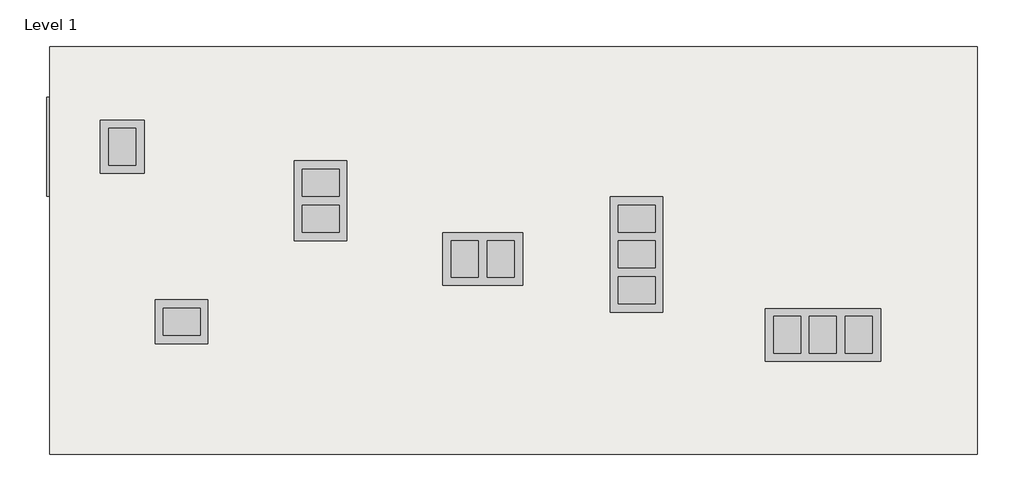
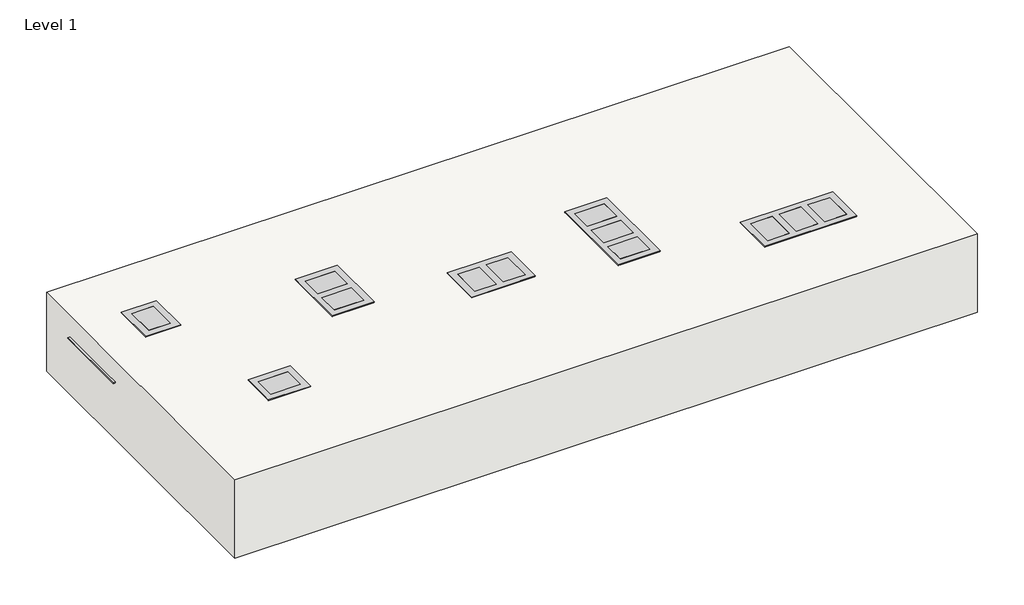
# One storey: 6 proxies, 1 slab.
"""IFC4 building model written with IfcOpenShell, lengths in millimetres."""

import ifcopenshell
import ifcopenshell.guid

model = None  # the IFC model being written
_history = None  # IfcOwnerHistory: only IFC2X3 demands one
_inside = {}  # id of a spatial element -> (the spatial element, [elements in it])
_under = {}  # id of a project, library or spatial element -> (it, [spatial elements below it])
_declared = {}  # id of a project -> (the project, [libraries it declares])
_typed = {}  # id of a type object -> (the type object, [elements of that type])
_made_of = {}  # id of a material, layer set ... -> (it, [elements and type objects made of it])


def new_model(schema):
    """Start an empty IFC model of exactly this schema.

    Asked for "IFC4X3", IfcOpenShell would pick the latest addendum, in which some entities
    have other attributes; the version numbers below select the first issue.
    IFC2X3 requires an IfcOwnerHistory on every rooted entity: one is made here for all.
    """
    global model, _history
    if schema == "IFC4X3":
        model = ifcopenshell.file(schema_version=(4, 3, 0, 0))
    else:
        model = ifcopenshell.file(schema=schema)
    _inside.clear()
    _under.clear()
    _declared.clear()
    _typed.clear()
    _made_of.clear()
    _history = None
    if model.schema == "IFC2X3":
        org = make("IfcOrganization", Name="unknown")
        user = make(
            "IfcPersonAndOrganization",
            ThePerson=make("IfcPerson", FamilyName="unknown"),
            TheOrganization=org,
        )
        app = make(
            "IfcApplication",
            ApplicationDeveloper=org,
            Version="unknown",
            ApplicationFullName="unknown",
            ApplicationIdentifier="unknown",
        )
        _history = make(
            "IfcOwnerHistory",
            OwningUser=user,
            OwningApplication=app,
            ChangeAction="ADDED",
            CreationDate=0,
        )
    return model


def make(cls, **values):
    """One entity of the class cls with the attributes given. An attribute that is None is left unset."""
    return model.create_entity(
        cls, **{name: value for name, value in values.items() if value is not None}
    )


def rooted(cls, **values):
    """An entity with a GlobalId (a new one), such as an element, a storey or a relation."""
    return make(cls, GlobalId=ifcopenshell.guid.new(), OwnerHistory=_history, **values)


def si_unit(unit_type, name, prefix=None):
    """IfcSIUnit, for example si_unit("LENGTHUNIT", "METRE", prefix="MILLI")."""
    return make("IfcSIUnit", UnitType=unit_type, Prefix=prefix, Name=name)


def assignment(units):
    """IfcUnitAssignment: the units of a project."""
    return None if units is None else make("IfcUnitAssignment", Units=units)


def point(xyz):
    """IfcCartesianPoint."""
    return None if xyz is None else make("IfcCartesianPoint", Coordinates=xyz)


def direction(xyz):
    """IfcDirection."""
    return None if xyz is None else make("IfcDirection", DirectionRatios=xyz)


def frame(location, z_axis=None, x_axis=None):
    """IfcAxis2Placement3D, a coordinate frame: its origin and axes. An axis left out is left unset."""
    return make(
        "IfcAxis2Placement3D",
        Location=point(location),
        Axis=direction(z_axis),
        RefDirection=direction(x_axis),
    )


def origin():
    """The frame at (0, 0, 0) with its axes left unset."""
    return frame((0.0, 0.0, 0.0))


def origin_with_axes():
    """The frame at (0, 0, 0) with the z axis (0, 0, 1) and the x axis (1, 0, 0) written out."""
    return frame((0.0, 0.0, 0.0), z_axis=(0.0, 0.0, 1.0), x_axis=(1.0, 0.0, 0.0))


def place(relative_to, where):
    """IfcLocalPlacement: puts the frame where relative to a parent placement (None: the world)."""
    return make(
        "IfcLocalPlacement", PlacementRelTo=relative_to, RelativePlacement=where
    )


def context(
    kind, dimensions, precision=None, world=None, true_north=None, identifier=None
):
    """IfcGeometricRepresentationContext, for example the 3D "Model" context."""
    return make(
        "IfcGeometricRepresentationContext",
        ContextIdentifier=identifier,
        ContextType=kind,
        CoordinateSpaceDimension=dimensions,
        Precision=precision,
        WorldCoordinateSystem=world,
        TrueNorth=true_north,
    )


def project(units=None, contexts=None):
    """IfcProject with its units and contexts."""
    return rooted(
        "IfcProject",
        Name="project",
        RepresentationContexts=contexts,
        UnitsInContext=assignment(units),
    )


def spatial(cls, under=None, at=None, **own):
    """A site, building, storey or space (cls), placed at a placement, below another one or the project."""
    s = rooted(cls, ObjectPlacement=at, **own)
    if under is not None:
        _under.setdefault(under.id(), (under, []))[1].append(s)
    return s


def polyline(points):
    """IfcPolyline through the points."""
    return make("IfcPolyline", Points=[point(p) for p in points])


def circle_curve(where, radius):
    """IfcCircle in the frame where."""
    return make("IfcCircle", Position=where, Radius=radius)


def outline(outer, holes=None, kind="AREA"):
    """IfcArbitraryClosedProfileDef: a profile drawn as a closed curve; with holes, ...WithVoids."""
    if holes is None:
        return make("IfcArbitraryClosedProfileDef", ProfileType=kind, OuterCurve=outer)
    return make(
        "IfcArbitraryProfileDefWithVoids",
        ProfileType=kind,
        OuterCurve=outer,
        InnerCurves=holes,
    )


def extrude(swept, where, along, depth):
    """IfcExtrudedAreaSolid: the profile swept, set in the frame where, extruded along a direction by depth."""
    return make(
        "IfcExtrudedAreaSolid",
        SweptArea=swept,
        Position=where,
        ExtrudedDirection=direction(along),
        Depth=depth,
    )


def faces_of(points, faces, orient=None, outer=None):
    """IfcFace entities. A face is a list of loops; a loop is a list of indices into points, from 0.

    orient and outer hold one flag for each loop. By default every Orientation is true, the
    first loop of a face is its IfcFaceOuterBound and the others are IfcFaceBound.
    """
    made = []
    for i, loops in enumerate(faces):
        bounds = []
        for j, loop in enumerate(loops):
            is_outer = j == 0 if outer is None else outer[i][j]
            bounds.append(
                make(
                    "IfcFaceOuterBound" if is_outer else "IfcFaceBound",
                    Bound=make("IfcPolyLoop", Polygon=[points[k] for k in loop]),
                    Orientation=True if orient is None else orient[i][j],
                )
            )
        made.append(make("IfcFace", Bounds=bounds))
    return made


def faceted_brep(points, faces, orient=None, outer=None, voids=None):
    """IfcFacetedBrep: a solid bounded by flat faces; with voids (closed shells), ...WithVoids."""
    shared = [point(p) for p in points]
    hull = make("IfcClosedShell", CfsFaces=faces_of(shared, faces, orient, outer))
    if voids is None:
        return make("IfcFacetedBrep", Outer=hull)
    return make(
        "IfcFacetedBrepWithVoids",
        Outer=hull,
        Voids=[
            make(cls, CfsFaces=faces_of(shared, fs, o, b)) for cls, fs, o, b in voids
        ],
    )


def shape(context_of_items, identifier, shape_type, items):
    """IfcShapeRepresentation: the items that make up one representation, for example the "Body"."""
    return make(
        "IfcShapeRepresentation",
        ContextOfItems=context_of_items,
        RepresentationIdentifier=identifier,
        RepresentationType=shape_type,
        Items=items,
    )


def source(mapping_origin, context_of_items, identifier, shape_type, items):
    """IfcRepresentationMap: a shape defined once, which mapped items show again and again."""
    return make(
        "IfcRepresentationMap",
        MappingOrigin=mapping_origin,
        MappedRepresentation=shape(context_of_items, identifier, shape_type, items),
    )


def transform(
    local_origin,
    x_axis=None,
    y_axis=None,
    z_axis=None,
    scale=None,
    scale2=None,
    scale3=None,
    uniform=True,
):
    """IfcCartesianTransformationOperator3D, or its non-uniform kind. x_axis, y_axis, z_axis: its Axis1, 2, 3."""
    if uniform:
        return make(
            "IfcCartesianTransformationOperator3D",
            Axis1=direction(x_axis),
            Axis2=direction(y_axis),
            LocalOrigin=point(local_origin),
            Scale=scale,
            Axis3=direction(z_axis),
        )
    return make(
        "IfcCartesianTransformationOperator3DnonUniform",
        Axis1=direction(x_axis),
        Axis2=direction(y_axis),
        LocalOrigin=point(local_origin),
        Scale=scale,
        Axis3=direction(z_axis),
        Scale2=scale2,
        Scale3=scale3,
    )


def mapped(mapping_source, mapping_target):
    """IfcMappedItem: shows the shape of a source again, moved by a transform."""
    return make(
        "IfcMappedItem", MappingSource=mapping_source, MappingTarget=mapping_target
    )


def made_of(thing, what):
    """Note that an element or type object is made of a material, layer set ...; save() writes the relation."""
    if what is not None:
        _made_of.setdefault(what.id(), (what, []))[1].append(thing)
    return thing


def element(
    cls,
    number,
    at=None,
    inside=None,
    cuts=None,
    type_object=None,
    material=None,
    context=None,
    identifier="Body",
    shape_type=None,
    held_by="IfcProductDefinitionShape",
    body=None,
    shapes=None,
    **own,
):
    """One element of the class cls, such as IfcWall. Its Tag is "e" and its number.

    at: its placement. inside: the storey or other place that contains it. cuts: it is an
    opening in that element (IfcRelVoidsElement). A single representation is given by context,
    identifier, shape_type and body (its items); several are given by shapes. held_by: the class
    of the entity that holds the representations. save() writes the other relations.
    """
    e = rooted(cls, Tag="e%d" % number, ObjectPlacement=at, **own)
    if body is not None:
        shapes = [shape(context, identifier, shape_type, body)]
    if shapes is not None:
        e.Representation = make(held_by, Representations=shapes)
    if inside is not None:
        _inside.setdefault(inside.id(), (inside, []))[1].append(e)
    if cuts is not None:
        rooted(
            "IfcRelVoidsElement", RelatingBuildingElement=cuts, RelatedOpeningElement=e
        )
    if type_object is not None:
        _typed.setdefault(type_object.id(), (type_object, []))[1].append(e)
    return made_of(e, material)


def aggregate(whole, parts):
    """IfcRelAggregates: a whole, such as a stair, and the parts it consists of."""
    return rooted("IfcRelAggregates", RelatingObject=whole, RelatedObjects=parts)


def save(model, path):
    """Write the relations noted so far, then the file.

    IfcRelAggregates (storeys below a building ...), IfcRelContainedInSpatialStructure (elements
    in a storey), IfcRelDefinesByType, IfcRelAssociatesMaterial and IfcRelDeclares: one each for
    every whole, place, type object, material and project.
    """
    for whole, parts in _under.values():
        aggregate(whole, parts)
    for where, things in _inside.values():
        rooted(
            "IfcRelContainedInSpatialStructure",
            RelatedElements=things,
            RelatingStructure=where,
        )
    for kind, things in _typed.values():
        rooted("IfcRelDefinesByType", RelatedObjects=things, RelatingType=kind)
    for what, things in _made_of.values():
        rooted("IfcRelAssociatesMaterial", RelatedObjects=things, RelatingMaterial=what)
    for by, libraries in _declared.values():
        rooted("IfcRelDeclares", RelatingContext=by, RelatedDefinitions=libraries)
    model.write(path)


def plane_surface(at):
    """IfcPlane: the flat surface through the origin of the frame at, square to its z axis."""
    return make("IfcPlane", Position=at)


def cylinder_surface(at, radius):
    """IfcCylindricalSurface: all points at the distance radius from the z axis of the frame at."""
    return make("IfcCylindricalSurface", Position=at, Radius=radius)


def advanced_brep(points, edges, surfaces, faces):
    """IfcAdvancedBrep: a solid bounded by faces that lie on surfaces and meet in shared edges.

    An edge is (start, end): straight between two places in points (the first is 0);
    or (start, end, curve); or (start, end, curve, False) where it runs against its curve.
    A face is (place in surfaces, loops), or (place, loops, False) where it looks against
    its surface's normal. A loop lists edges by number (the first is 1), with a minus sign
    where the edge is run from its end to its start. The first loop is the outer one.
    """
    corners = [point(p) for p in points]
    vertices = [make("IfcVertexPoint", VertexGeometry=c) for c in corners]
    made = []
    for start, end, *more in edges:
        made.append(
            make(
                "IfcEdgeCurve",
                EdgeStart=vertices[start],
                EdgeEnd=vertices[end],
                EdgeGeometry=more[0] if more else make("IfcPolyline", Points=[corners[start], corners[end]]),
                SameSense=more[1] if len(more) > 1 else True,
            )
        )
    hull = []
    for where, loops, *sense in faces:
        bounds = []
        for j, loop in enumerate(loops):
            ring = [make("IfcOrientedEdge", EdgeElement=made[abs(k) - 1], Orientation=k > 0) for k in loop]
            bounds.append(
                make(
                    "IfcFaceOuterBound" if j == 0 else "IfcFaceBound",
                    Bound=make("IfcEdgeLoop", EdgeList=ring),
                    Orientation=True,
                )
            )
        hull.append(make("IfcAdvancedFace", Bounds=bounds, FaceSurface=surfaces[where], SameSense=sense[0] if sense else True))
    return make("IfcAdvancedBrep", Outer=make("IfcClosedShell", CfsFaces=hull))


def shallow_11c98d8f(model_context):
    return source(origin(), model_context, "Body", "SolidModel", [
        extrude(outline(polyline([(65.1129, 53.975), (144.4879, 53.975), (144.4879, -53.975), (65.1129, -53.975), (65.1129, 53.975)])), frame((0.0, 0.0, -9.525), z_axis=(0.0, 0.0, 1.0), x_axis=(1.0, 0.0, 0.0)), (0.0, 0.0, 1.0), 12.7),
        extrude(outline(polyline([(-144.4879, 53.975), (-65.1129, 53.975), (-65.1129, -53.975), (-144.4879, -53.975), (-144.4879, 53.975)])), frame((0.0, 0.0, -9.525), z_axis=(0.0, 0.0, 1.0), x_axis=(1.0, 0.0, 0.0)), (0.0, 0.0, 1.0), 12.7),
        extrude(outline(polyline([(-39.6875, 53.975), (39.6875, 53.975), (39.6875, -53.975), (-39.6875, -53.975), (-39.6875, 53.975)])), frame((0.0, 0.0, -9.525), z_axis=(0.0, 0.0, 1.0), x_axis=(1.0, 0.0, 0.0)), (0.0, 0.0, 1.0), 12.7),
        extrude(outline(polyline([(169.0751, 77.0001), (169.0751, -77.0001), (-169.0751, -77.0001), (-169.0751, 77.0001), (169.0751, 77.0001)]), holes=[polyline([(39.6875, 53.975), (-39.6875, 53.975), (-39.6875, -53.975), (39.6875, -53.975), (39.6875, 53.975)]), polyline([(144.4879, 53.975), (65.1129, 53.975), (65.1129, -53.975), (144.4879, -53.975), (144.4879, 53.975)]), polyline([(-65.1129, 53.975), (-144.4879, 53.975), (-144.4879, -53.975), (-65.1129, -53.975), (-65.1129, 53.975)])]), origin_with_axes(), (0.0, 0.0, 1.0), 3.175),
        faceted_brep([(-253.365, -144.653, -81.026), (253.365, -144.653, -81.026), (253.365, 144.653, -81.026), (-253.365, 144.653, -81.026), (-250.19, -73.533, -81.026), (-250.19, 73.533, -81.026), (250.19, 73.533, -81.026), (250.19, -73.533, -81.026), (-165.1, 141.478, -81.026), (165.1, 141.478, -81.026), (165.1, 90.54465, -81.026), (-165.1, 90.54465, -81.026), (165.1, -141.478, -81.026), (-165.1, -141.478, -81.026), (-165.1, -90.54465, -81.026), (165.1, -90.54465, -81.026), (-253.365, -144.653, -172.974), (-253.365, 144.653, -172.974), (253.365, 144.653, -172.974), (253.365, -144.653, -172.974), (-250.19, 141.478, -169.799), (-250.19, -141.478, -169.799), (250.19, -141.478, -169.799), (250.19, 141.478, -169.799), (-250.19, 141.478, -84.201), (-250.19, 76.708, -84.201), (-250.19, 76.708, -92.075), (-250.19, 29.083, -92.075), (-250.19, 29.083, -88.9), (-250.19, 73.533, -88.9), (-250.19, -73.533, -88.9), (-250.19, -29.083, -88.9), (-250.19, -29.083, -92.075), (-250.19, -76.708, -92.075), (-250.19, -76.708, -84.201), (-250.19, -141.478, -84.201), (-165.1, -141.478, -84.201), (165.1, -141.478, -84.201), (250.19, -141.478, -84.201), (250.19, -76.708, -84.201), (250.19, -76.708, -92.075), (250.19, -29.083, -92.075), (250.19, -29.083, -88.9), (250.19, -73.533, -88.9), (250.19, 73.533, -88.9), (250.19, 29.083, -88.9), (250.19, 29.083, -92.075), (250.19, 76.708, -92.075), (250.19, 76.708, -84.201), (250.19, 141.478, -84.201), (165.1, 141.478, -84.201), (-165.1, 141.478, -84.201), (165.1, -90.54465, -84.201), (-165.1, -90.54465, -84.201), (-165.1, 90.54465, -84.201), (165.1, 90.54465, -84.201)], [[[0, 1, 2, 3], [4, 5, 6, 7], [8, 9, 10, 11], [12, 13, 14, 15]], [[16, 17, 18, 19]], [[1, 0, 16, 19]], [[2, 1, 19, 18]], [[3, 2, 18, 17]], [[20, 21, 22, 23]], [[21, 20, 24, 25, 26, 27, 28, 29, 5, 4, 30, 31, 32, 33, 34, 35]], [[22, 21, 35, 36, 13, 12, 37, 38]], [[23, 22, 38, 39, 40, 41, 42, 43, 7, 6, 44, 45, 46, 47, 48, 49]], [[20, 23, 49, 50, 9, 8, 51, 24]], [[4, 7, 43, 30]], [[30, 43, 42, 31]], [[31, 42, 41, 32]], [[32, 41, 40, 33]], [[33, 40, 39, 34]], [[34, 39, 38, 37, 52, 53, 36, 35]], [[48, 25, 24, 51, 54, 55, 50, 49]], [[25, 48, 47, 26]], [[26, 47, 46, 27]], [[27, 46, 45, 28]], [[28, 45, 44, 29]], [[29, 44, 6, 5]], [[54, 11, 10, 55]], [[55, 10, 9, 50]], [[11, 54, 51, 8]], [[53, 14, 13, 36]], [[15, 52, 37, 12]], [[14, 53, 52, 15]], [[0, 3, 17, 16]]]),
        extrude(outline(polyline([(-253.365, -144.653), (253.365, -144.653), (253.365, -195.453), (-253.365, -195.453), (-253.365, -144.653)])), frame((0.0, 0.0, -84.201), z_axis=(0.0, 0.0, 1.0), x_axis=(1.0, 0.0, 0.0)), (0.0, 0.0, 1.0), 3.175),
        extrude(outline(polyline([(-253.365, 195.453), (253.365, 195.453), (253.365, 144.653), (-253.365, 144.653), (-253.365, 195.453)])), frame((0.0, 0.0, -84.201), z_axis=(0.0, 0.0, 1.0), x_axis=(1.0, 0.0, 0.0)), (0.0, 0.0, 1.0), 3.175),
        extrude(outline(polyline([(-253.365, 144.653), (-253.365, -144.653), (-291.465, -144.653), (-291.465, 144.653), (-253.365, 144.653)])), frame((0.0, 0.0, -84.201), z_axis=(0.0, 0.0, 1.0), x_axis=(1.0, 0.0, 0.0)), (0.0, 0.0, 1.0), 3.175),
        extrude(outline(polyline([(291.465, 144.653), (291.465, -144.653), (253.365, -144.653), (253.365, 144.653), (291.465, 144.653)])), frame((0.0, 0.0, -84.201), z_axis=(0.0, 0.0, 1.0), x_axis=(1.0, 0.0, 0.0)), (0.0, 0.0, 1.0), 3.175),
        advanced_brep(
        [(104.394, 0.0, -228.6), (140.97, 0.0, -228.6), (67.818, 0.0, -228.6), (140.97, 0.0, -172.974), (67.818, 0.0, -172.974), (104.394, 0.0, -172.974)],
        [
            (0, 1),
            (1, 2, circle_curve(frame((104.394, 0.0, -228.6), z_axis=(0.0, 0.0, -1.0), x_axis=(1.0, 0.0, 0.0)), 36.576)),
            (2, 0),
            (2, 1, circle_curve(frame((104.394, 0.0, -228.6), z_axis=(0.0, 0.0, -1.0), x_axis=(1.0, 0.0, 0.0)), 36.576)),
            (1, 3),
            (3, 4, circle_curve(frame((104.394, 0.0, -172.974), z_axis=(0.0, 0.0, -1.0), x_axis=(1.0, 0.0, 0.0)), 36.576)),
            (4, 2),
            (4, 3, circle_curve(frame((104.394, 0.0, -172.974), z_axis=(0.0, 0.0, -1.0), x_axis=(1.0, 0.0, 0.0)), 36.576)),
            (3, 5),
            (5, 4),
        ],
        [
            plane_surface(frame((104.394, 0.0, -228.6), z_axis=(0.0, 0.0, -1.0), x_axis=(1.0, 0.0, 0.0))),
            cylinder_surface(frame((104.394, 0.0, -138.43), z_axis=(0.0, 0.0, -1.0), x_axis=(1.0, 0.0, 0.0)), 36.576),
            plane_surface(frame((104.394, 0.0, -172.974), z_axis=(0.0, 0.0, 1.0), x_axis=(1.0, 0.0, 0.0))),
        ],
        [
            (0, [[1, 2, 3]]),
            (0, [[-1, -3, 4]]),
            (1, [[-2, 5, 6, 7]]),
            (1, [[-4, -7, 8, -5]]),
            (2, [[-6, 9, 10]]),
            (2, [[-8, -10, -9]]),
        ],
    ),
        advanced_brep(
        [(-59.944, 0.0, -228.6), (-148.844, 0.0, -228.6), (-104.394, 0.0, -228.6), (-59.944, 0.0, -172.974), (-148.844, 0.0, -172.974), (-104.394, 0.0, -172.974)],
        [
            (0, 1, circle_curve(frame((-104.394, 0.0, -228.6), z_axis=(0.0, 0.0, -1.0), x_axis=(-1.0, 0.0, 0.0)), 44.45)),
            (1, 2),
            (2, 0),
            (1, 0, circle_curve(frame((-104.394, 0.0, -228.6), z_axis=(0.0, 0.0, -1.0), x_axis=(-1.0, 0.0, 0.0)), 44.45)),
            (0, 3),
            (3, 4, circle_curve(frame((-104.394, 0.0, -172.974), z_axis=(0.0, 0.0, -1.0), x_axis=(-1.0, 0.0, 0.0)), 44.45)),
            (4, 1),
            (4, 3, circle_curve(frame((-104.394, 0.0, -172.974), z_axis=(0.0, 0.0, -1.0), x_axis=(-1.0, 0.0, 0.0)), 44.45)),
            (3, 5),
            (5, 4),
        ],
        [
            plane_surface(frame((-104.394, 0.0, -228.6), z_axis=(0.0, 0.0, -1.0), x_axis=(-1.0, 0.0, 0.0))),
            cylinder_surface(frame((-104.394, 0.0, -61.1886), z_axis=(0.0, 0.0, 1.0), x_axis=(-1.0, 0.0, 0.0)), 44.45),
            plane_surface(frame((-104.394, 0.0, -172.974), z_axis=(0.0, 0.0, 1.0), x_axis=(-1.0, 0.0, 0.0))),
        ],
        [
            (0, [[1, 2, 3]]),
            (0, [[-2, 4, -3]]),
            (1, [[-1, 5, 6, 7]]),
            (1, [[-4, -7, 8, -5]]),
            (2, [[-6, 9, 10]]),
            (2, [[-8, -10, -9]]),
        ],
    ),
        advanced_brep(
        [(0.0, 0.0, -172.974), (-44.45, 0.0, -172.974), (44.45, 0.0, -172.974), (44.45, 0.0, -228.6), (-44.45, 0.0, -228.6), (0.0, 0.0, -228.6)],
        [
            (0, 1),
            (1, 2, circle_curve(frame((0.0, 0.0, -172.974), z_axis=(0.0, 0.0, 1.0), x_axis=(-1.0, 0.0, 0.0)), 44.45)),
            (2, 0),
            (2, 1, circle_curve(frame((0.0, 0.0, -172.974), z_axis=(0.0, 0.0, 1.0), x_axis=(-1.0, 0.0, 0.0)), 44.45)),
            (3, 4, circle_curve(frame((0.0, 0.0, -228.6), z_axis=(0.0, 0.0, -1.0), x_axis=(-1.0, 0.0, 0.0)), 44.45)),
            (4, 5),
            (5, 3),
            (4, 3, circle_curve(frame((0.0, 0.0, -228.6), z_axis=(0.0, 0.0, -1.0), x_axis=(-1.0, 0.0, 0.0)), 44.45)),
            (1, 4),
            (3, 2),
        ],
        [
            plane_surface(frame((0.0, 0.0, -172.974), z_axis=(0.0, 0.0, 1.0), x_axis=(-1.0, 0.0, 0.0))),
            plane_surface(frame((0.0, 0.0, -228.6), z_axis=(0.0, 0.0, -1.0), x_axis=(-1.0, 0.0, 0.0))),
            cylinder_surface(frame((0.0, 0.0, -95.7326), z_axis=(0.0, 0.0, 1.0), x_axis=(-1.0, 0.0, 0.0)), 44.45),
        ],
        [
            (0, [[1, 2, 3]]),
            (0, [[-1, -3, 4]]),
            (1, [[5, 6, 7]]),
            (1, [[-6, 8, -7]]),
            (2, [[-2, 9, -5, 10]]),
            (2, [[-4, -10, -8, -9]]),
        ],
    ),
        extrude(outline(polyline([(-151.892, 60.579), (151.892, 60.579), (151.892, -60.579), (-151.892, -60.579), (-151.892, 60.579)])), frame((0.0, 0.0, -88.9), z_axis=(0.0, 0.0, 1.0), x_axis=(1.0, 0.0, 0.0)), (0.0, 0.0, 1.0), 88.9),
    ])


def shallow_aca0ecf7(model_context):
    return source(origin(), model_context, "Body", "SolidModel", [
        extrude(outline(polyline([(-39.6875, 53.975), (39.6875, 53.975), (39.6875, -53.975), (-39.6875, -53.975), (-39.6875, 53.975)])), frame((0.0, 0.0, -9.525), z_axis=(0.0, 0.0, 1.0), x_axis=(1.0, 0.0, 0.0)), (0.0, 0.0, 1.0), 12.7),
        extrude(outline(polyline([(64.3001, 77.0001), (64.3001, -77.0001), (-64.3001, -77.0001), (-64.3001, 77.0001), (64.3001, 77.0001)]), holes=[polyline([(39.6875, 53.975), (-39.6875, 53.975), (-39.6875, -53.975), (39.6875, -53.975), (39.6875, 53.975)])]), origin_with_axes(), (0.0, 0.0, 1.0), 3.175),
        faceted_brep([(-180.34, -73.533, -81.026), (180.34, -73.533, -81.026), (180.34, -73.533, -88.9), (-180.34, -73.533, -88.9), (180.34, -29.083, -88.9), (-180.34, -29.083, -88.9), (180.34, -29.083, -92.075), (-180.34, -29.083, -92.075), (180.34, -76.708, -92.075), (-180.34, -76.708, -92.075), (180.34, -76.708, -84.201), (-180.34, -76.708, -84.201), (180.34, -141.478, -84.201), (127.0, -141.478, -84.201), (127.0, -90.678, -84.201), (-127.0, -90.678, -84.201), (-127.0, -141.478, -84.201), (-180.34, -141.478, -84.201), (180.34, 76.708, -84.201), (-180.34, 76.708, -84.201), (-180.34, 141.478, -84.201), (-127.0, 141.478, -84.201), (-127.0, 90.678, -84.201), (127.0, 90.678, -84.201), (127.0, 141.478, -84.201), (180.34, 141.478, -84.201), (180.34, 76.708, -92.075), (-180.34, 76.708, -92.075), (180.34, 29.083, -92.075), (-180.34, 29.083, -92.075), (180.34, 29.083, -88.9), (-180.34, 29.083, -88.9), (180.34, 73.533, -88.9), (-180.34, 73.533, -88.9), (180.34, 73.533, -81.026), (-180.34, 73.533, -81.026), (-183.515, 144.653, -81.026), (-183.515, -144.653, -81.026), (183.515, -144.653, -81.026), (183.515, 144.653, -81.026), (-127.0, 141.478, -81.026), (127.0, 141.478, -81.026), (127.0, 90.678, -81.026), (-127.0, 90.678, -81.026), (127.0, -141.478, -81.026), (-127.0, -141.478, -81.026), (-127.0, -90.678, -81.026), (127.0, -90.678, -81.026), (-183.515, 144.653, -172.974), (183.515, 144.653, -172.974), (183.515, -144.653, -172.974), (-183.515, -144.653, -172.974), (-180.34, 141.478, -169.799), (-180.34, -141.478, -169.799), (180.34, -141.478, -169.799), (180.34, 141.478, -169.799)], [[[0, 1, 2, 3]], [[3, 2, 4, 5]], [[5, 4, 6, 7]], [[7, 6, 8, 9]], [[9, 8, 10, 11]], [[11, 10, 12, 13, 14, 15, 16, 17]], [[18, 19, 20, 21, 22, 23, 24, 25]], [[19, 18, 26, 27]], [[27, 26, 28, 29]], [[29, 28, 30, 31]], [[31, 30, 32, 33]], [[33, 32, 34, 35]], [[36, 37, 38, 39], [0, 35, 34, 1], [40, 41, 42, 43], [44, 45, 46, 47]], [[48, 49, 50, 51]], [[37, 36, 48, 51]], [[38, 37, 51, 50]], [[39, 38, 50, 49]], [[36, 39, 49, 48]], [[52, 53, 54, 55]], [[53, 52, 20, 19, 27, 29, 31, 33, 35, 0, 3, 5, 7, 9, 11, 17]], [[54, 53, 17, 16, 45, 44, 13, 12]], [[55, 54, 12, 10, 8, 6, 4, 2, 1, 34, 32, 30, 28, 26, 18, 25]], [[52, 55, 25, 24, 41, 40, 21, 20]], [[22, 43, 42, 23]], [[23, 42, 41, 24]], [[43, 22, 21, 40]], [[15, 46, 45, 16]], [[47, 14, 13, 44]], [[46, 15, 14, 47]]]),
        extrude(outline(polyline([(-183.515, 195.453), (183.515, 195.453), (183.515, 144.653), (-183.515, 144.653), (-183.515, 195.453)])), frame((0.0, 0.0, -84.201), z_axis=(0.0, 0.0, 1.0), x_axis=(1.0, 0.0, 0.0)), (0.0, 0.0, 1.0), 3.175),
        extrude(outline(polyline([(-183.515, -144.653), (183.515, -144.653), (183.515, -195.453), (-183.515, -195.453), (-183.515, -144.653)])), frame((0.0, 0.0, -84.201), z_axis=(0.0, 0.0, 1.0), x_axis=(1.0, 0.0, 0.0)), (0.0, 0.0, 1.0), 3.175),
        extrude(outline(polyline([(-221.615, 144.653), (-183.515, 144.653), (-183.515, -144.653), (-221.615, -144.653), (-221.615, 144.653)])), frame((0.0, 0.0, -84.201), z_axis=(0.0, 0.0, 1.0), x_axis=(1.0, 0.0, 0.0)), (0.0, 0.0, 1.0), 3.175),
        extrude(outline(polyline([(183.515, 144.653), (221.615, 144.653), (221.615, -144.653), (183.515, -144.653), (183.515, 144.653)])), frame((0.0, 0.0, -84.201), z_axis=(0.0, 0.0, 1.0), x_axis=(1.0, 0.0, 0.0)), (0.0, 0.0, 1.0), 3.175),
        advanced_brep(
        [(44.45, 0.0, -228.6), (-44.45, 0.0, -228.6), (0.0, 0.0, -228.6), (44.45, 0.0, -172.974), (-44.45, 0.0, -172.974), (0.0, 0.0, -172.974)],
        [
            (0, 1, circle_curve(frame((0.0, 0.0, -228.6), z_axis=(0.0, 0.0, -1.0), x_axis=(-1.0, 0.0, 0.0)), 44.45)),
            (1, 2),
            (2, 0),
            (1, 0, circle_curve(frame((0.0, 0.0, -228.6), z_axis=(0.0, 0.0, -1.0), x_axis=(-1.0, 0.0, 0.0)), 44.45)),
            (3, 4, circle_curve(frame((0.0, 0.0, -172.974), z_axis=(0.0, 0.0, -1.0), x_axis=(-1.0, 0.0, 0.0)), 44.45)),
            (4, 1),
            (0, 3),
            (4, 3, circle_curve(frame((0.0, 0.0, -172.974), z_axis=(0.0, 0.0, -1.0), x_axis=(-1.0, 0.0, 0.0)), 44.45)),
            (5, 4),
            (3, 5),
        ],
        [
            plane_surface(frame((0.0, 0.0, -228.6), z_axis=(0.0, 0.0, -1.0), x_axis=(-1.0, 0.0, 0.0))),
            cylinder_surface(frame((0.0, 0.0, 222.1738), z_axis=(0.0, 0.0, 1.0), x_axis=(-1.0, 0.0, 0.0)), 44.45),
            plane_surface(frame((0.0, 0.0, -172.974), z_axis=(0.0, 0.0, 1.0), x_axis=(-1.0, 0.0, 0.0))),
        ],
        [
            (0, [[1, 2, 3]]),
            (0, [[4, -3, -2]]),
            (1, [[5, 6, -1, 7]]),
            (1, [[8, -7, -4, -6]]),
            (2, [[9, -5, 10]]),
            (2, [[-10, -8, -9]]),
        ],
    ),
        extrude(outline(polyline([(-47.244, 60.579), (47.244, 60.579), (47.244, -60.579), (-47.244, -60.579), (-47.244, 60.579)])), frame((0.0, 0.0, -88.9), z_axis=(0.0, 0.0, 1.0), x_axis=(1.0, 0.0, 0.0)), (0.0, 0.0, 1.0), 88.9),
    ])


def standard_68cc898d(model_context):
    return source(origin(), model_context, "Body", "SolidModel", [
        extrude(outline(polyline([(12.7127, 53.975), (92.0877, 53.975), (92.0877, -53.975), (12.7127, -53.975), (12.7127, 53.975)])), frame((0.0, 0.0, -9.525), z_axis=(0.0, 0.0, 1.0), x_axis=(1.0, 0.0, 0.0)), (0.0, 0.0, 1.0), 12.7),
        extrude(outline(polyline([(-92.0877, 53.975), (-12.7127, 53.975), (-12.7127, -53.975), (-92.0877, -53.975), (-92.0877, 53.975)])), frame((0.0, 0.0, -9.525), z_axis=(0.0, 0.0, 1.0), x_axis=(1.0, 0.0, 0.0)), (0.0, 0.0, 1.0), 12.7),
        extrude(outline(polyline([(116.6876, 77.0001), (116.6876, -77.0001), (-116.6876, -77.0001), (-116.6876, 77.0001), (116.6876, 77.0001)]), holes=[polyline([(92.0877, 53.975), (12.7127, 53.975), (12.7127, -53.975), (92.0877, -53.975), (92.0877, 53.975)]), polyline([(-12.7127, 53.975), (-92.0877, 53.975), (-92.0877, -53.975), (-12.7127, -53.975), (-12.7127, 53.975)])]), origin_with_axes(), (0.0, 0.0, 1.0), 3.175),
        faceted_brep([(-183.515, 144.653, -81.026), (-183.515, 144.653, -172.974), (-183.515, -144.653, -172.974), (-183.515, -144.653, -81.026), (183.515, -144.653, -81.026), (183.515, -144.653, -172.974), (183.515, 144.653, -172.974), (183.515, 144.653, -81.026), (-180.34, -73.533, -81.026), (180.34, -73.533, -81.026), (180.34, -73.533, -88.9), (-180.34, -73.533, -88.9), (180.34, -29.083, -88.9), (-180.34, -29.083, -88.9), (180.34, -29.083, -92.075), (-180.34, -29.083, -92.075), (180.34, -76.708, -92.075), (-180.34, -76.708, -92.075), (180.34, -76.708, -84.201), (-180.34, -76.708, -84.201), (-127.0, -90.678, -84.201), (-127.0, -141.478, -84.201), (-180.34, -141.478, -84.201), (180.34, -141.478, -84.201), (127.0, -141.478, -84.201), (127.0, -90.678, -84.201), (-127.0, 90.678, -84.201), (127.0, 90.678, -84.201), (127.0, 141.478, -84.201), (180.34, 141.478, -84.201), (180.34, 76.708, -84.201), (-180.34, 76.708, -84.201), (-180.34, 141.478, -84.201), (-127.0, 141.478, -84.201), (180.34, 76.708, -92.075), (-180.34, 76.708, -92.075), (180.34, 29.083, -92.075), (-180.34, 29.083, -92.075), (180.34, 29.083, -88.9), (-180.34, 29.083, -88.9), (180.34, 73.533, -88.9), (-180.34, 73.533, -88.9), (180.34, 73.533, -81.026), (-180.34, 73.533, -81.026), (127.0, -90.678, -81.026), (127.0, -141.478, -81.026), (-127.0, -141.478, -81.026), (-127.0, -90.678, -81.026), (-127.0, 141.478, -81.026), (127.0, 141.478, -81.026), (127.0, 90.678, -81.026), (-127.0, 90.678, -81.026), (-180.34, 141.478, -169.799), (-180.34, -141.478, -169.799), (180.34, -141.478, -169.799), (180.34, 141.478, -169.799)], [[[0, 1, 2, 3]], [[4, 5, 6, 7]], [[8, 9, 10, 11]], [[11, 10, 12, 13]], [[13, 12, 14, 15]], [[15, 14, 16, 17]], [[17, 16, 18, 19]], [[20, 21, 22, 19, 18, 23, 24, 25]], [[26, 27, 28, 29, 30, 31, 32, 33]], [[31, 30, 34, 35]], [[35, 34, 36, 37]], [[37, 36, 38, 39]], [[39, 38, 40, 41]], [[41, 40, 42, 43]], [[4, 7, 0, 3], [44, 45, 46, 47], [48, 49, 50, 51], [8, 43, 42, 9]], [[26, 51, 50, 27]], [[27, 50, 49, 28]], [[51, 26, 33, 48]], [[20, 47, 46, 21]], [[44, 25, 24, 45]], [[47, 20, 25, 44]], [[1, 6, 5, 2]], [[4, 3, 2, 5]], [[0, 7, 6, 1]], [[52, 53, 54, 55]], [[53, 52, 32, 31, 35, 37, 39, 41, 43, 8, 11, 13, 15, 17, 19, 22]], [[54, 53, 22, 21, 46, 45, 24, 23]], [[55, 54, 23, 18, 16, 14, 12, 10, 9, 42, 40, 38, 36, 34, 30, 29]], [[52, 55, 29, 28, 49, 48, 33, 32]]]),
        extrude(outline(polyline([(-183.515, -144.653), (183.515, -144.653), (183.515, -195.453), (-183.515, -195.453), (-183.515, -144.653)])), frame((0.0, 0.0, -84.201), z_axis=(0.0, 0.0, 1.0), x_axis=(1.0, 0.0, 0.0)), (0.0, 0.0, 1.0), 3.175),
        extrude(outline(polyline([(-183.515, 195.453), (183.515, 195.453), (183.515, 144.653), (-183.515, 144.653), (-183.515, 195.453)])), frame((0.0, 0.0, -84.201), z_axis=(0.0, 0.0, 1.0), x_axis=(1.0, 0.0, 0.0)), (0.0, 0.0, 1.0), 3.175),
        extrude(outline(polyline([(-221.615, 144.653), (-183.515, 144.653), (-183.515, -144.653), (-221.615, -144.653), (-221.615, 144.653)])), frame((0.0, 0.0, -84.201), z_axis=(0.0, 0.0, 1.0), x_axis=(1.0, 0.0, 0.0)), (0.0, 0.0, 1.0), 3.175),
        extrude(outline(polyline([(183.515, 144.653), (221.615, 144.653), (221.615, -144.653), (183.515, -144.653), (183.515, 144.653)])), frame((0.0, 0.0, -84.201), z_axis=(0.0, 0.0, 1.0), x_axis=(1.0, 0.0, 0.0)), (0.0, 0.0, 1.0), 3.175),
        advanced_brep(
        [(-7.62, 0.0, -228.6), (-96.52, 0.0, -228.6), (-52.07, 0.0, -228.6), (-7.62, 0.0, -172.974), (-96.52, 0.0, -172.974), (-52.07, 0.0, -172.974)],
        [
            (0, 1, circle_curve(frame((-52.07, 0.0, -228.6), z_axis=(0.0, 0.0, -1.0), x_axis=(-1.0, 0.0, 0.0)), 44.45)),
            (1, 2),
            (2, 0),
            (1, 0, circle_curve(frame((-52.07, 0.0, -228.6), z_axis=(0.0, 0.0, -1.0), x_axis=(-1.0, 0.0, 0.0)), 44.45)),
            (3, 4, circle_curve(frame((-52.07, 0.0, -172.974), z_axis=(0.0, 0.0, -1.0), x_axis=(-1.0, 0.0, 0.0)), 44.45)),
            (4, 1),
            (0, 3),
            (4, 3, circle_curve(frame((-52.07, 0.0, -172.974), z_axis=(0.0, 0.0, -1.0), x_axis=(-1.0, 0.0, 0.0)), 44.45)),
            (5, 4),
            (3, 5),
        ],
        [
            plane_surface(frame((-52.07, 0.0, -228.6), z_axis=(0.0, 0.0, -1.0), x_axis=(-1.0, 0.0, 0.0))),
            cylinder_surface(frame((-52.07, 0.0, -99.2886), z_axis=(0.0, 0.0, 1.0), x_axis=(-1.0, 0.0, 0.0)), 44.45),
            plane_surface(frame((-52.07, 0.0, -172.974), z_axis=(0.0, 0.0, 1.0), x_axis=(-1.0, 0.0, 0.0))),
        ],
        [
            (0, [[1, 2, 3]]),
            (0, [[4, -3, -2]]),
            (1, [[5, 6, -1, 7]]),
            (1, [[8, -7, -4, -6]]),
            (2, [[9, -5, 10]]),
            (2, [[-10, -8, -9]]),
        ],
    ),
        advanced_brep(
        [(52.07, 0.0, -228.6), (88.646, 0.0, -228.6), (15.494, 0.0, -228.6), (88.646, 0.0, -172.974), (15.494, 0.0, -172.974), (52.07, 0.0, -172.974)],
        [
            (0, 1),
            (1, 2, circle_curve(frame((52.07, 0.0, -228.6), z_axis=(0.0, 0.0, -1.0), x_axis=(1.0, 0.0, 0.0)), 36.576)),
            (2, 0),
            (2, 1, circle_curve(frame((52.07, 0.0, -228.6), z_axis=(0.0, 0.0, -1.0), x_axis=(1.0, 0.0, 0.0)), 36.576)),
            (1, 3),
            (3, 4, circle_curve(frame((52.07, 0.0, -172.974), z_axis=(0.0, 0.0, -1.0), x_axis=(1.0, 0.0, 0.0)), 36.576)),
            (4, 2),
            (4, 3, circle_curve(frame((52.07, 0.0, -172.974), z_axis=(0.0, 0.0, -1.0), x_axis=(1.0, 0.0, 0.0)), 36.576)),
            (3, 5),
            (5, 4),
        ],
        [
            plane_surface(frame((52.07, 0.0, -228.6), z_axis=(0.0, 0.0, -1.0), x_axis=(1.0, 0.0, 0.0))),
            cylinder_surface(frame((52.07, 0.0, -79.4512), z_axis=(0.0, 0.0, -1.0), x_axis=(1.0, 0.0, 0.0)), 36.576),
            plane_surface(frame((52.07, 0.0, -172.974), z_axis=(0.0, 0.0, 1.0), x_axis=(1.0, 0.0, 0.0))),
        ],
        [
            (0, [[1, 2, 3]]),
            (0, [[-3, 4, -1]]),
            (1, [[-2, 5, 6, 7]]),
            (1, [[-4, -7, 8, -5]]),
            (2, [[-6, 9, 10]]),
            (2, [[-8, -10, -9]]),
        ],
    ),
        extrude(outline(polyline([(-99.568, 60.579), (99.568, 60.579), (99.568, -60.579), (-99.568, -60.579), (-99.568, 60.579)])), frame((0.0, 0.0, -88.9), z_axis=(0.0, 0.0, 1.0), x_axis=(1.0, 0.0, 0.0)), (0.0, 0.0, 1.0), 88.9),
    ])


model = new_model("IFC4")

# Units and contexts
model_context = context("Model", 3, world=origin())
ifc_project = project(units=[si_unit("LENGTHUNIT", "METRE", prefix="MILLI")], contexts=[model_context])

# Site, building, storey
site = spatial("IfcSite", under=ifc_project)
building = spatial("IfcBuilding", under=site)
storey = spatial("IfcBuildingStorey", under=building, Name="Level 1", Elevation=0.0)

# Proxies
placement = place(None, origin())
shallow_shape = shallow_11c98d8f(model_context)
element("IfcBuildingElementProxy", 1, Name="Floor_Box-OmniBox_Series-Wiremold-880_Steel-3_Gang-Fire_Classified : Shallow", ObjectType="Floor_Box-OmniBox_Series-Wiremold-880_Steel-3_Gang-Fire_Classified : Shallow", at=placement, inside=storey, context=model_context, shape_type="MappedRepresentation", body=[
    mapped(shallow_shape, transform((3552.6475991, 770.2928318, 0.0), x_axis=(0.0, 1.0, 0.0), y_axis=(-1.0, 0.0, 0.0), z_axis=(0.0, 0.0, 1.0))),
])
shallow_2_shape = shallow_aca0ecf7(model_context)
element("IfcBuildingElementProxy", 2, Name="Floor_Box-OmniBox_Series-Wiremold-880_Steel-1_Gang-Fire_Classified : Shallow", ObjectType="Floor_Box-OmniBox_Series-Wiremold-880_Steel-1_Gang-Fire_Classified : Shallow", at=placement, inside=storey, context=model_context, shape_type="MappedRepresentation", body=[
    mapped(shallow_2_shape, transform((2045.8159038, 1085.5054029, 0.0), x_axis=(1.0, 0.0, 0.0), y_axis=(0.0, 1.0, 0.0), z_axis=(0.0, 0.0, 1.0))),
])
element("IfcBuildingElementProxy", 3, Name="Floor_Box-OmniBox_Series-Wiremold-880_Steel-3_Gang-Fire_Classified : Standard", ObjectType="Floor_Box-OmniBox_Series-Wiremold-880_Steel-3_Gang-Fire_Classified : Standard", at=placement, inside=storey, context=model_context, shape_type="MappedRepresentation", body=[
    mapped(shallow_shape, transform((4098.1208256, 534.487576, 0.0), x_axis=(-1.0, 0.0, 0.0), y_axis=(0.0, -1.0, 0.0), z_axis=(0.0, 0.0, 1.0))),
])
element("IfcBuildingElementProxy", 4, Name="Floor_Box-OmniBox_Series-Wiremold-880_Steel-1_Gang-Fire_Classified : Standard", ObjectType="Floor_Box-OmniBox_Series-Wiremold-880_Steel-1_Gang-Fire_Classified : Standard", at=placement, inside=storey, context=model_context, shape_type="MappedRepresentation", body=[
    mapped(shallow_2_shape, transform((2219.8802696, 573.0842745, 0.0), x_axis=(0.0, 1.0, 0.0), y_axis=(-1.0, 0.0, 0.0), z_axis=(0.0, 0.0, 1.0))),
])
standard_shape = standard_68cc898d(model_context)
element("IfcBuildingElementProxy", 5, Name="Floor_Box-OmniBox_Series-Wiremold-880_Steel-2_Gang-Fire_Classified : Standard", ObjectType="Floor_Box-OmniBox_Series-Wiremold-880_Steel-2_Gang-Fire_Classified : Standard", at=placement, inside=storey, context=model_context, shape_type="MappedRepresentation", body=[
    mapped(standard_shape, transform((2626.9259848, 927.232516, -0.127), x_axis=(0.0, 1.0000000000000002, 0.0), y_axis=(-1.0000000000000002, 0.0, 0.0), z_axis=(0.0, 0.0, 1.0))),
])
element("IfcBuildingElementProxy", 6, Name="Floor_Box-OmniBox_Series-Wiremold-880_Steel-2_Gang-Fire_Classified : Standard", ObjectType="Floor_Box-OmniBox_Series-Wiremold-880_Steel-2_Gang-Fire_Classified : Standard", at=placement, inside=storey, context=model_context, shape_type="MappedRepresentation", body=[
    mapped(standard_shape, transform((3101.7529726, 756.5974183, 0.0), x_axis=(-1.0, 0.0, 0.0), y_axis=(0.0, -1.0, 0.0), z_axis=(0.0, 0.0, 1.0))),
])

# Slab
element("IfcSlab", 7, ObjectType="Generic - 12\"", at=placement, inside=storey, context=model_context, shape_type="Brep", body=[
    faceted_brep([(4550.9973575, 1378.9766815, -304.8), (4550.9973575, 185.1766815, -304.8), (1833.1973575, 185.1766815, -304.8), (1833.1973575, 1378.9766815, -304.8), (4550.9973575, 185.1766815, 0.0), (4550.9973575, 1378.9766815, 0.0), (1833.1973575, 1378.9766815, 0.0), (1833.1973575, 185.1766815, 0.0), (2006.1284038, 1139.4804029, 0.0), (2085.5034038, 1139.4804029, 0.0), (2085.5034038, 1031.5304029, 0.0), (2006.1284038, 1031.5304029, 0.0), (2572.9509848, 939.945216, 0.0), (2572.9509848, 1019.320216, 0.0), (2680.9009848, 1019.320216, 0.0), (2680.9009848, 939.945216, 0.0), (3089.0402726, 702.6224183, 0.0), (3009.6652726, 702.6224183, 0.0), (3009.6652726, 810.5724183, 0.0), (3089.0402726, 810.5724183, 0.0), (2165.9052696, 533.3967745, 0.0), (2165.9052696, 612.7717745, 0.0), (2273.8552696, 612.7717745, 0.0), (2273.8552696, 533.3967745, 0.0), (2085.5034038, 1139.4804029, -9.525), (2006.1284038, 1139.4804029, -9.525), (2006.1284038, 1031.5304029, -9.525), (2085.5034038, 1031.5304029, -9.525), (2572.9509848, 1019.320216, -9.652), (2572.9509848, 939.945216, -9.652), (2680.9009848, 939.945216, -9.652), (2680.9009848, 1019.320216, -9.652), (3009.6652726, 702.6224183, -9.525), (3089.0402726, 702.6224183, -9.525), (3089.0402726, 810.5724183, -9.525), (3009.6652726, 810.5724183, -9.525), (2165.9052696, 612.7717745, -9.525), (2165.9052696, 533.3967745, -9.525), (2273.8552696, 533.3967745, -9.525), (2273.8552696, 612.7717745, -9.525)], [[[0, 1, 2, 3]], [[4, 5, 6, 7], [8, 9, 10, 11], [12, 13, 14, 15], [16, 17, 18, 19], [20, 21, 22, 23]], [[1, 0, 5, 4]], [[2, 1, 4, 7]], [[3, 2, 7, 6]], [[0, 3, 6, 5]], [[24, 25, 26, 27]], [[25, 24, 9, 8]], [[26, 25, 8, 11]], [[27, 26, 11, 10]], [[24, 27, 10, 9]], [[28, 29, 30, 31]], [[29, 28, 13, 12]], [[30, 29, 12, 15]], [[31, 30, 15, 14]], [[28, 31, 14, 13]], [[32, 33, 34, 35]], [[33, 32, 17, 16]], [[34, 33, 16, 19]], [[35, 34, 19, 18]], [[32, 35, 18, 17]], [[36, 37, 38, 39]], [[37, 36, 21, 20]], [[38, 37, 20, 23]], [[39, 38, 23, 22]], [[36, 39, 22, 21]]]),
])

save(model, "model.ifc")
